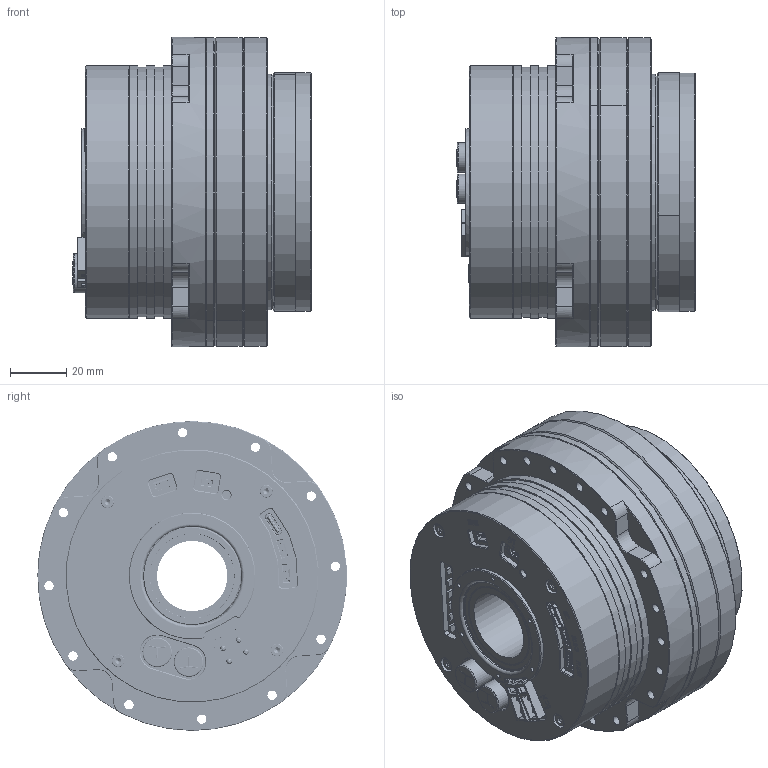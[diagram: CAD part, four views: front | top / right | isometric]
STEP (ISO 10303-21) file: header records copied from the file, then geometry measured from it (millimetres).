
FILE_DESCRIPTION( ('This file contains a STEP AP42 implementation' ,'as created by ZW3D STEP Interface translator.') ,'2;1' );
FILE_NAME( 'HJ2-252.stp' ,'25 820.163336', (''), ('ZWCAD Software Co.'), 'Version 1.0', 'ZW3D to STEP translator', '' );
FILE_SCHEMA(('AUTOMOTIVE_DESIGN { 1 0 10303 214 1 1 1 1 }'));
Length unit declared in the file: millimetre
Products named in the file (1): 0
Bounding box: 84.62 x 109.87 x 109.99 mm (x, y, z)
Volume: 569211.5 mm3; surface area: 215212.1 mm2
Topology: 77 solids, 95 shells, 6392 faces, 17043 edges, 10965 vertices
Faces by surface type: plane 4657, cylinder 917, cone 339, bspline 261, torus 136, sphere 82
Full cylindrical faces by diameter (mm): 1.6 x12, 2.5 x12, 2.7 x4, 3 x17, 3.3 x20, 3.5 x12, 4 x8, 4.5 x44, 5.5 x12, 6 x20, 10.1 x2, 10.5 x2, 25 x1, 30 x1, 30.89 x1, 32 x1, 32.282 x2, 33 x1, 34.718 x2, 35 x1, 36.332 x2, 37 x2, 65 x1, 66 x1, 66.8 x1, 71.189 x1, 83 x1, 85 x1, 86.6 x1, 87 x3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
Entity records: 206669 total; most frequent: CARTESIAN_POINT 41535, ORIENTED_EDGE 33771, DIRECTION 31004, EDGE_CURVE 16891, VECTOR 13394, LINE 13394, VERTEX_POINT 10993, AXIS2_PLACEMENT_3D 8805
